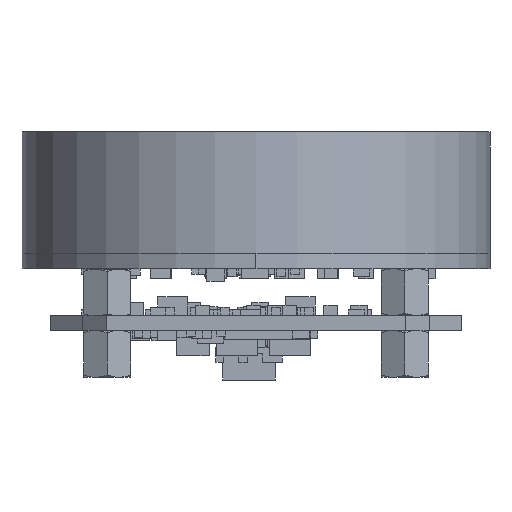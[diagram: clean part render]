
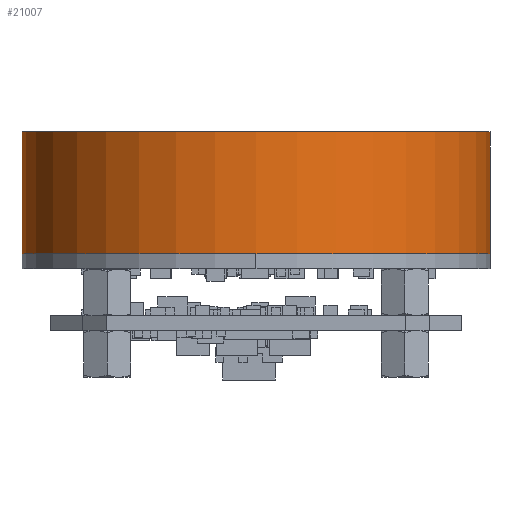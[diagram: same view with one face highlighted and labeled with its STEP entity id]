
A CAD part, left-side view. The second image highlights one B-rep face of the part: STEP entity #21007.
In plain terms, the highlighted cylindrical face has radius 25 mm (diameter 50 mm), a partial arc.
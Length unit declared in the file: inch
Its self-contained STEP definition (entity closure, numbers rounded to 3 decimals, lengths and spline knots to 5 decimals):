
#21007=ADVANCED_FACE('',(#40358),#40359,.T.);
#21099=EDGE_CURVE('',#40534,#40535,#40536,.T.);
#21101=EDGE_CURVE('',#40538,#40539,#40540,.T.);
#40358=FACE_OUTER_BOUND('',#69403,.T.);
#40359=CYLINDRICAL_SURFACE('',#69404,0.98425);
#40534=VERTEX_POINT('',#69584);
#40535=VERTEX_POINT('',#69585);
#40536=CIRCLE('',#69586,0.98425);
#40538=VERTEX_POINT('',#69589);
#40539=VERTEX_POINT('',#69590);
#40540=CIRCLE('',#69591,0.98425);
#69403=EDGE_LOOP('',(#93094,#93095,#93096,#93097));
#69404=AXIS2_PLACEMENT_3D('',#93098,#93099,#93100);
#69584=CARTESIAN_POINT('',(0.0,0.98425,0.));
#69585=CARTESIAN_POINT('',(0.,-0.98425,0.));
#69586=AXIS2_PLACEMENT_3D('',#93501,#93502,#93503);
#69589=CARTESIAN_POINT('',(0.0,0.98425,0.51181));
#69590=CARTESIAN_POINT('',(0.,-0.98425,0.51181));
#69591=AXIS2_PLACEMENT_3D('',#93504,#93505,#93506);
#93094=ORIENTED_EDGE('',*,*,#96105,.F.);
#93095=ORIENTED_EDGE('',*,*,#21099,.T.);
#93096=ORIENTED_EDGE('',*,*,#96106,.F.);
#93097=ORIENTED_EDGE('',*,*,#21101,.F.);
#93098=CARTESIAN_POINT('',(0.0,0.0,0.25591));
#93099=DIRECTION('',(0.0,-0.0,1.0));
#93100=DIRECTION('',(0.0,1.0,0.0));
#93501=CARTESIAN_POINT('',(0.0,0.0,0.));
#93502=DIRECTION('',(0.0,-0.0,1.0));
#93503=DIRECTION('',(0.0,1.0,0.0));
#93504=CARTESIAN_POINT('',(0.0,0.0,0.51181));
#93505=DIRECTION('',(0.0,-0.0,1.0));
#93506=DIRECTION('',(0.0,1.0,0.0));
#96105=EDGE_CURVE('',#40534,#40538,#98564,.T.);
#96106=EDGE_CURVE('',#40539,#40535,#98565,.T.);
#98564=LINE('',#101148,#101149);
#98565=LINE('',#101150,#101151);
#101148=CARTESIAN_POINT('',(0.,0.98425,0.25591));
#101149=VECTOR('',#101387,1.0);
#101150=CARTESIAN_POINT('',(0.,-0.98425,0.25591));
#101151=VECTOR('',#101388,1.0);
#101387=DIRECTION('',(0.0,0.0,1.0));
#101388=DIRECTION('',(-0.0,-0.0,-1.0));
